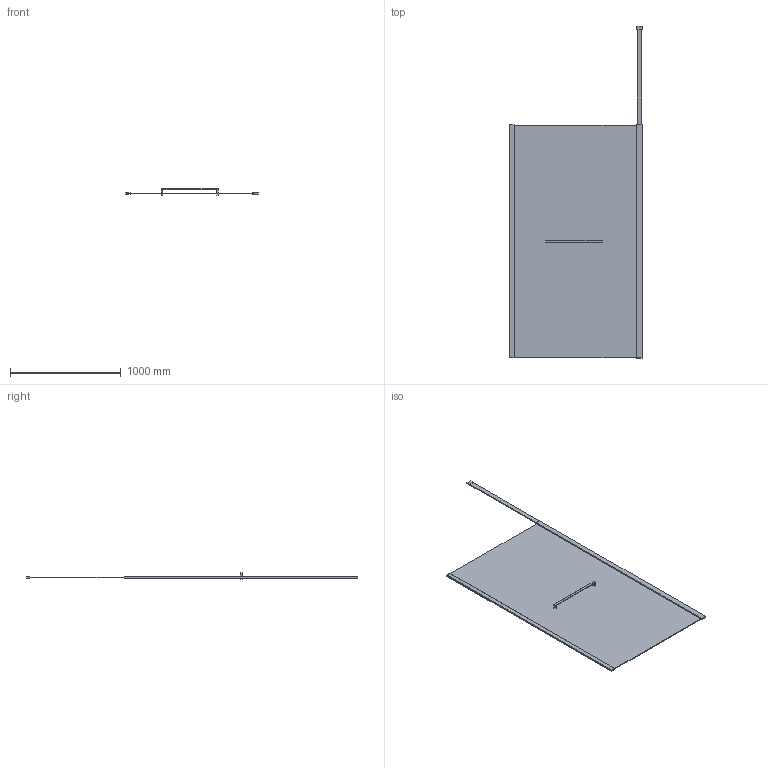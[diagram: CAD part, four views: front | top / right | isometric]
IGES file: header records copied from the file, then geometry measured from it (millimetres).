
Start section: SolidWorks IGES file using analytic representation for surfaces
Global section: file name: D:\Users\M.Szymanski\Desktop\Kabiny\PI_ALTIIa\PI_ALTIIa_120_wspornik pionowy_K3D.IGS; native system: SolidWorks 2011; preprocessor: SolidWorks 2011; author: M.Szymanski; date: 181002.134641; units: millimetre
Bounding box: 1199.9 x 3000 x 54.5 mm (x, y, z)
Surface area: 5684024.2 mm2 (no closed solid volume)
Topology: 0 solids, 0 shells, 49 faces, 324 edges, 432 vertices
Faces by surface type: bspline 49
